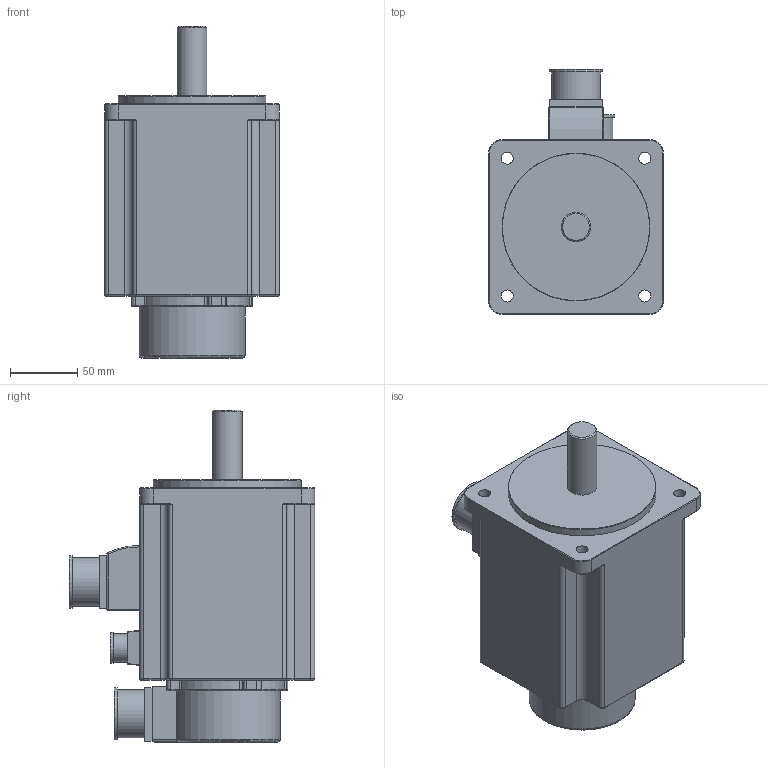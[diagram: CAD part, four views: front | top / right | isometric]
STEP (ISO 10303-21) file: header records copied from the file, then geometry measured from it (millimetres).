
FILE_DESCRIPTION(/* description */ (''),/* implementation_level */ '2;1');
FILE_NAME(/* name */ '130MSL04820- FZ(4Nm、4.77Nm、5Nm).stp',/* time_stamp */ '2019-11-22T13:46:10+08:00',/* author */ (''),/* organization */ (''),/* preprocessor_version */ 'ST-DEVELOPER v16',/* originating_system */ 'SIEMENS PLM Software NX 10.0',/* authorisation */ '');
FILE_SCHEMA (('CONFIG_CONTROL_DESIGN'));
Length unit declared in the file: millimetre
Products named in the file (1): 130MSL04820- FZ(4Nm、4.77Nm、5Nm)
Bounding box: 130 x 182.5 x 247 mm (x, y, z)
Volume: 2648285.8 mm3; surface area: 139310.8 mm2
Topology: 1 solids, 1 shells, 283 faces, 663 edges, 375 vertices
Faces by surface type: cylinder 131, plane 67, torus 55, sphere 16, bspline 12, cone 2
Full cylindrical faces by diameter (mm): 9 x4, 21 x1, 22 x1, 23 x1, 36 x2, 39 x2, 110 x1
Entity records: 8052 total; most frequent: CARTESIAN_POINT 1557, DIRECTION 1477, ORIENTED_EDGE 1250, EDGE_CURVE 625, AXIS2_PLACEMENT_3D 602, VERTEX_POINT 369, CIRCLE 320, EDGE_LOOP 316
